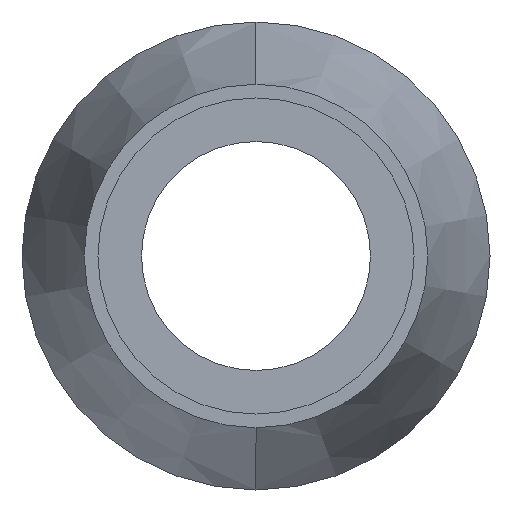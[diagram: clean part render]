
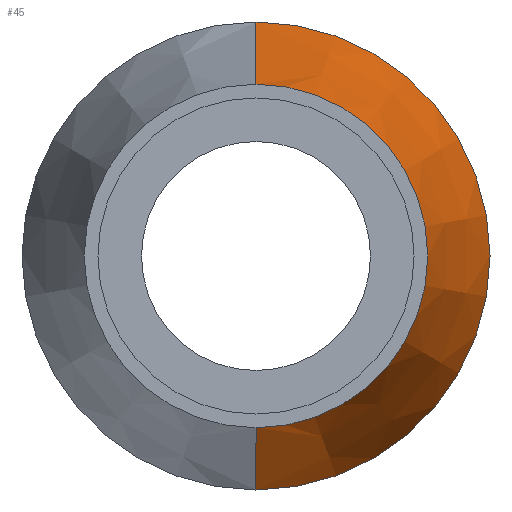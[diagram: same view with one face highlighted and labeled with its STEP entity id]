
A CAD part, left-side view. The second image highlights one B-rep face of the part: STEP entity #45.
In plain terms, the highlighted conical face has half-angle 15 degrees and reference radius 3.45 mm.
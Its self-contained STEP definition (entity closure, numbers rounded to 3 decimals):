
#5 = EDGE_CURVE ( 'NONE', #6, #14, #208, .T. ) ;
#6 = VERTEX_POINT ( 'NONE', #203 ) ;
#7 = ORIENTED_EDGE ( 'NONE', *, *, #13, .F. ) ;
#8 = EDGE_CURVE ( 'NONE', #10, #9, #202, .T. ) ;
#9 = VERTEX_POINT ( 'NONE', #197 ) ;
#10 = VERTEX_POINT ( 'NONE', #196 ) ;
#11 = EDGE_CURVE ( 'NONE', #6, #10, #355, .T. ) ;
#12 = ORIENTED_EDGE ( 'NONE', *, *, #8, .T. ) ;
#13 = EDGE_CURVE ( 'NONE', #14, #9, #351, .T. ) ;
#14 = VERTEX_POINT ( 'NONE', #347 ) ;
#15 = ORIENTED_EDGE ( 'NONE', *, *, #11, .T. ) ;
#45 = ADVANCED_FACE ( 'NONE', ( #291 ), #290, .T. ) ;
#46 = EDGE_LOOP ( 'NONE', ( #47, #15, #12, #7 ) ) ;
#47 = ORIENTED_EDGE ( 'NONE', *, *, #5, .F. ) ;
#196 = CARTESIAN_POINT ( 'NONE',  ( 10.065, 0., -4.7 ) ) ;
#197 = CARTESIAN_POINT ( 'NONE',  ( 10.065, 0., 4.7 ) ) ;
#198 = DIRECTION ( 'NONE',  ( 0., 0., -1. ) ) ;
#199 = DIRECTION ( 'NONE',  ( -1., 0., 0. ) ) ;
#200 = CARTESIAN_POINT ( 'NONE',  ( 10.065, 0., 0. ) ) ;
#201 = AXIS2_PLACEMENT_3D ( 'NONE', #200, #199, #198 ) ;
#202 = CIRCLE ( 'NONE', #201, 4.7 ) ;
#203 = CARTESIAN_POINT ( 'NONE',  ( 5.4, 0., -3.45 ) ) ;
#204 = DIRECTION ( 'NONE',  ( 0., 0., 1. ) ) ;
#205 = DIRECTION ( 'NONE',  ( -1., 0., 0. ) ) ;
#206 = CARTESIAN_POINT ( 'NONE',  ( 5.4, 0., 0. ) ) ;
#207 = AXIS2_PLACEMENT_3D ( 'NONE', #206, #205, #204 ) ;
#208 = CIRCLE ( 'NONE', #207, 3.45 ) ;
#285 = DIRECTION ( 'NONE',  ( 0., 0., 1. ) ) ;
#286 = DIRECTION ( 'NONE',  ( 1., 0., 0. ) ) ;
#287 = CARTESIAN_POINT ( 'NONE',  ( 5.4, 0., 0. ) ) ;
#288 = AXIS2_PLACEMENT_3D ( 'NONE', #287, #286, #285 ) ;
#290 = CONICAL_SURFACE ( 'NONE', #288, 3.45, 0.262 ) ;
#291 = FACE_OUTER_BOUND ( 'NONE', #46, .T. ) ;
#347 = CARTESIAN_POINT ( 'NONE',  ( 5.4, 0., 3.45 ) ) ;
#348 = DIRECTION ( 'NONE',  ( 0.966, 0., 0.259 ) ) ;
#349 = VECTOR ( 'NONE', #348, 1000. ) ;
#350 = CARTESIAN_POINT ( 'NONE',  ( 5.4, 0., 3.45 ) ) ;
#351 = LINE ( 'NONE', #350, #349 ) ;
#352 = DIRECTION ( 'NONE',  ( 0.966, 0., -0.259 ) ) ;
#353 = VECTOR ( 'NONE', #352, 1000. ) ;
#354 = CARTESIAN_POINT ( 'NONE',  ( 5.4, 0., -3.45 ) ) ;
#355 = LINE ( 'NONE', #354, #353 ) ;
